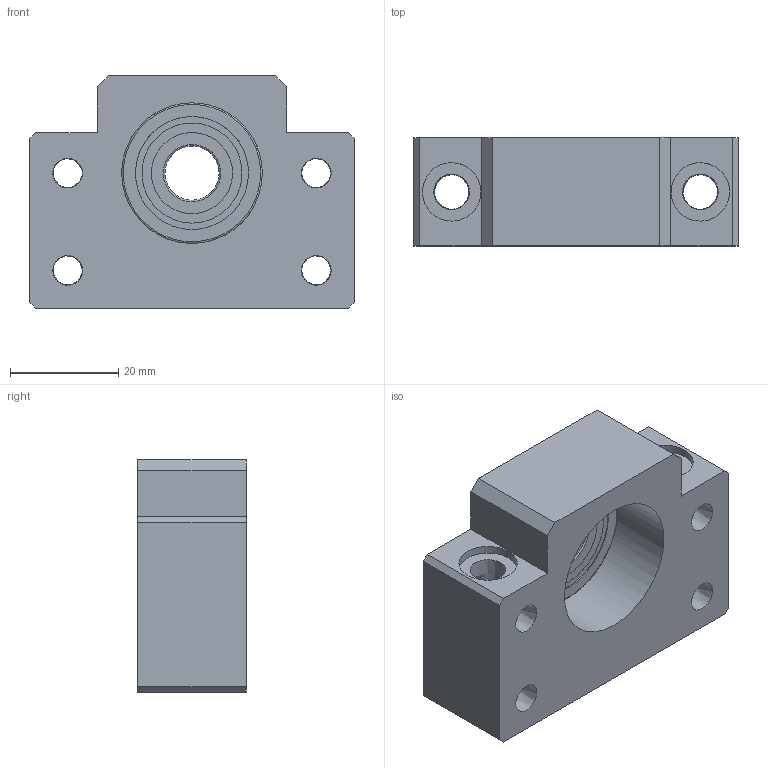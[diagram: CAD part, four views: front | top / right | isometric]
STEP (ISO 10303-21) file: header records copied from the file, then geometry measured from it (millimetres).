
FILE_DESCRIPTION( ('This file contains a STEP AP42 implementation' ,'as created by ZW3D STEP Interface translator.') ,'2;1' );
FILE_NAME( '91CCF868-F2DD-19C1-F7B0-914AD25EA558.stp' ,'17 610. 95932', (''), ('ZWCAD Software Co.'), 'Version 1.0', 'ZW3D to STEP translator', '' );
FILE_SCHEMA( ('CONFIG_CONTROL_DESIGN') );
Length unit declared in the file: millimetre
Products named in the file (4): 0; FSFBF-12; _BF 12 Part2; _BF 12 Part1
Assembly tree (2 placements, depth 2):
  0
  FSFBF-12
    _BF 12 Part2
    _BF 12 Part1
Bounding box: 60 x 20 x 43 mm (x, y, z)
Volume: 35440.6 mm3; surface area: 12920.5 mm2
Topology: 2 solids, 2 shells, 51 faces, 126 edges, 83 vertices
Faces by surface type: bspline 51
Entity records: 2379 total; most frequent: CARTESIAN_POINT 1453, ORIENTED_EDGE 252, EDGE_CURVE 126, VERTEX_POINT 83, B_SPLINE_CURVE_WITH_KNOTS 83, EDGE_LOOP 79, FACE_OUTER_BOUND 51, ADVANCED_FACE 51
